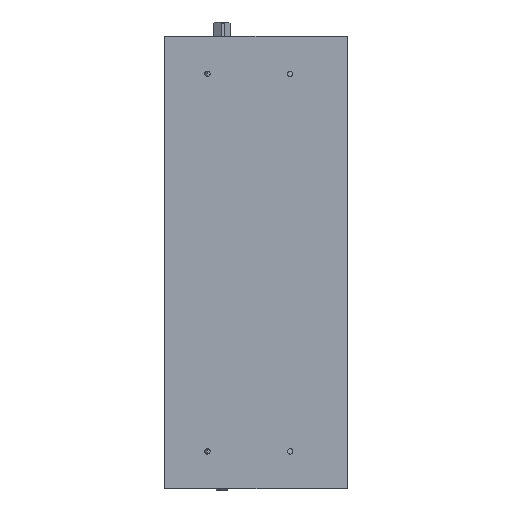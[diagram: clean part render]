
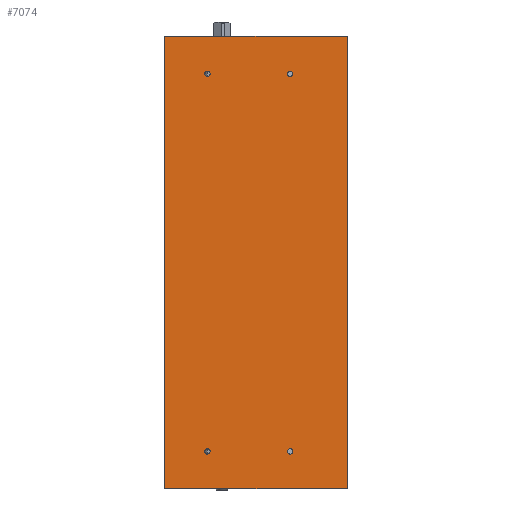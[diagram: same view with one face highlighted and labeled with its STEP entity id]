
A CAD part, front view. The second image highlights one B-rep face of the part: STEP entity #7074.
In plain terms, the highlighted planar face has unit normal (0, -1, 0).
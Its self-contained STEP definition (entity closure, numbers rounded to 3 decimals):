
#442=FACE_BOUND('',#1115,.T.);
#443=FACE_BOUND('',#1116,.T.);
#444=FACE_BOUND('',#1117,.T.);
#445=FACE_BOUND('',#1118,.T.);
#517=PLANE('',#7961);
#721=FACE_OUTER_BOUND('',#1114,.T.);
#1114=EDGE_LOOP('',(#4905,#4906,#4907,#4908));
#1115=EDGE_LOOP('',(#4909));
#1116=EDGE_LOOP('',(#4910));
#1117=EDGE_LOOP('',(#4911));
#1118=EDGE_LOOP('',(#4912));
#1577=LINE('',#11183,#2125);
#1580=LINE('',#11188,#2128);
#1581=LINE('',#11192,#2129);
#1582=LINE('',#11193,#2130);
#2125=VECTOR('',#8878,10.);
#2128=VECTOR('',#8883,10.);
#2129=VECTOR('',#8888,10.);
#2130=VECTOR('',#8889,10.);
#2658=CIRCLE('',#7941,2.459);
#2661=CIRCLE('',#7945,2.459);
#2664=CIRCLE('',#7949,2.459);
#2667=CIRCLE('',#7953,2.459);
#3078=VERTEX_POINT('',#11128);
#3081=VERTEX_POINT('',#11136);
#3084=VERTEX_POINT('',#11144);
#3087=VERTEX_POINT('',#11152);
#3096=VERTEX_POINT('',#11180);
#3097=VERTEX_POINT('',#11182);
#3098=VERTEX_POINT('',#11186);
#3099=VERTEX_POINT('',#11191);
#3804=EDGE_CURVE('',#3078,#3078,#2658,.T.);
#3808=EDGE_CURVE('',#3081,#3081,#2661,.T.);
#3812=EDGE_CURVE('',#3084,#3084,#2664,.T.);
#3816=EDGE_CURVE('',#3087,#3087,#2667,.T.);
#3830=EDGE_CURVE('',#3097,#3096,#1577,.T.);
#3833=EDGE_CURVE('',#3096,#3098,#1580,.T.);
#3834=EDGE_CURVE('',#3098,#3099,#1581,.T.);
#3835=EDGE_CURVE('',#3099,#3097,#1582,.T.);
#4905=ORIENTED_EDGE('',*,*,#3833,.T.);
#4906=ORIENTED_EDGE('',*,*,#3834,.T.);
#4907=ORIENTED_EDGE('',*,*,#3835,.T.);
#4908=ORIENTED_EDGE('',*,*,#3830,.T.);
#4909=ORIENTED_EDGE('',*,*,#3804,.T.);
#4910=ORIENTED_EDGE('',*,*,#3808,.T.);
#4911=ORIENTED_EDGE('',*,*,#3812,.T.);
#4912=ORIENTED_EDGE('',*,*,#3816,.T.);
#7074=ADVANCED_FACE('',(#721,#442,#443,#444,#445),#517,.T.);
#7941=AXIS2_PLACEMENT_3D('',#11130,#8826,#8827);
#7945=AXIS2_PLACEMENT_3D('',#11138,#8835,#8836);
#7949=AXIS2_PLACEMENT_3D('',#11146,#8844,#8845);
#7953=AXIS2_PLACEMENT_3D('',#11154,#8853,#8854);
#7961=AXIS2_PLACEMENT_3D('',#11190,#8886,#8887);
#8826=DIRECTION('center_axis',(0.,1.,0.));
#8827=DIRECTION('ref_axis',(1.,0.,0.));
#8835=DIRECTION('center_axis',(0.,1.,0.));
#8836=DIRECTION('ref_axis',(1.,0.,0.));
#8844=DIRECTION('center_axis',(0.,1.,0.));
#8845=DIRECTION('ref_axis',(1.,0.,0.));
#8853=DIRECTION('center_axis',(0.,1.,0.));
#8854=DIRECTION('ref_axis',(1.,0.,0.));
#8878=DIRECTION('',(-1.,0.,0.));
#8883=DIRECTION('',(0.,0.,-1.));
#8886=DIRECTION('center_axis',(0.,-1.,0.));
#8887=DIRECTION('ref_axis',(0.,0.,-1.));
#8888=DIRECTION('',(1.,0.,0.));
#8889=DIRECTION('',(0.,0.,1.));
#11128=CARTESIAN_POINT('',(28.541,-10.,171.));
#11130=CARTESIAN_POINT('Origin',(31.,-10.,171.));
#11136=CARTESIAN_POINT('',(28.541,-10.,-171.));
#11138=CARTESIAN_POINT('Origin',(31.,-10.,-171.));
#11144=CARTESIAN_POINT('',(-46.459,-10.,-171.));
#11146=CARTESIAN_POINT('Origin',(-44.,-10.,-171.));
#11152=CARTESIAN_POINT('',(-46.459,-10.,171.));
#11154=CARTESIAN_POINT('Origin',(-44.,-10.,171.));
#11180=CARTESIAN_POINT('',(-82.5,-10.,205.));
#11182=CARTESIAN_POINT('',(82.5,-10.,205.));
#11183=CARTESIAN_POINT('',(-82.5,-10.,205.));
#11186=CARTESIAN_POINT('',(-82.5,-10.,-205.));
#11188=CARTESIAN_POINT('',(-82.5,-10.,-205.));
#11190=CARTESIAN_POINT('Origin',(0.,-10.,0.));
#11191=CARTESIAN_POINT('',(82.5,-10.,-205.));
#11192=CARTESIAN_POINT('',(82.5,-10.,-205.));
#11193=CARTESIAN_POINT('',(82.5,-10.,205.));
